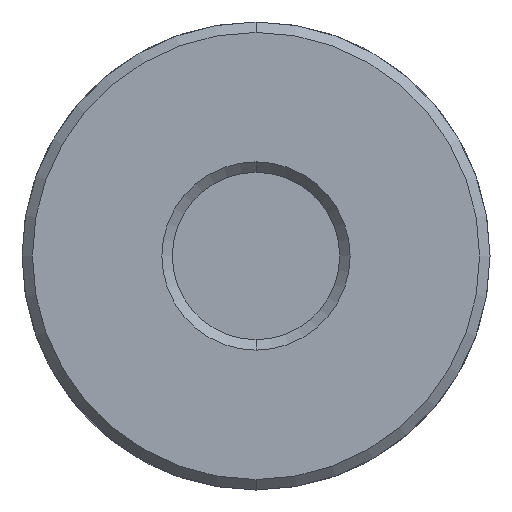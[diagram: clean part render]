
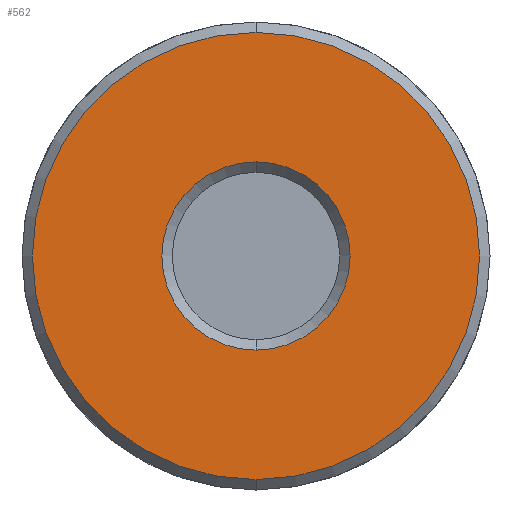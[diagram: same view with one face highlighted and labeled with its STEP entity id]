
A CAD part, front view. The second image highlights one B-rep face of the part: STEP entity #562.
In plain terms, the highlighted planar face has unit normal (0, -1, 0).
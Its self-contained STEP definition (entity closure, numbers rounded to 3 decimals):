
#1 = CARTESIAN_POINT ( 'NONE',  ( -22.5, 0., 0. ) ) ;
#12 = DIRECTION ( 'NONE',  ( 0., 1., 0. ) ) ;
#23 = DIRECTION ( 'NONE',  ( 0., -1., 0. ) ) ;
#30 = AXIS2_PLACEMENT_3D ( 'NONE', #473, #507, #514 ) ;
#36 = AXIS2_PLACEMENT_3D ( 'NONE', #553, #23, #139 ) ;
#40 = DIRECTION ( 'NONE',  ( 0., 0., 1. ) ) ;
#57 = CIRCLE ( 'NONE', #36, 21.5 ) ;
#62 = AXIS2_PLACEMENT_3D ( 'NONE', #344, #352, #353 ) ;
#66 = AXIS2_PLACEMENT_3D ( 'NONE', #154, #150, #176 ) ;
#71 = VERTEX_POINT ( 'NONE', #299 ) ;
#109 = EDGE_CURVE ( 'NONE', #525, #577, #288, .T. ) ;
#127 = EDGE_CURVE ( 'NONE', #577, #525, #434, .T. ) ;
#139 = DIRECTION ( 'NONE',  ( 0., 0., 1. ) ) ;
#150 = DIRECTION ( 'NONE',  ( 0., 1., 0. ) ) ;
#154 = CARTESIAN_POINT ( 'NONE',  ( 0., 0., 0. ) ) ;
#176 = DIRECTION ( 'NONE',  ( 0., 0., 1. ) ) ;
#179 = EDGE_CURVE ( 'NONE', #71, #387, #57, .T. ) ;
#207 = AXIS2_PLACEMENT_3D ( 'NONE', #1, #12, #40 ) ;
#264 = EDGE_CURVE ( 'NONE', #387, #71, #369, .T. ) ;
#288 = CIRCLE ( 'NONE', #66, 9.05 ) ;
#291 = ORIENTED_EDGE ( 'NONE', *, *, #109, .T. ) ;
#299 = CARTESIAN_POINT ( 'NONE',  ( 0., 0., -21.5 ) ) ;
#335 = FACE_OUTER_BOUND ( 'NONE', #693, .T. ) ;
#341 = FACE_BOUND ( 'NONE', #749, .T. ) ;
#344 = CARTESIAN_POINT ( 'NONE',  ( 0., 0., 0. ) ) ;
#352 = DIRECTION ( 'NONE',  ( 0., 1., 0. ) ) ;
#353 = DIRECTION ( 'NONE',  ( 0., 0., 1. ) ) ;
#369 = CIRCLE ( 'NONE', #30, 21.5 ) ;
#387 = VERTEX_POINT ( 'NONE', #708 ) ;
#434 = CIRCLE ( 'NONE', #62, 9.05 ) ;
#473 = CARTESIAN_POINT ( 'NONE',  ( 0., 0., 0. ) ) ;
#496 = ORIENTED_EDGE ( 'NONE', *, *, #127, .T. ) ;
#507 = DIRECTION ( 'NONE',  ( 0., -1., 0. ) ) ;
#514 = DIRECTION ( 'NONE',  ( 0., 0., 1. ) ) ;
#525 = VERTEX_POINT ( 'NONE', #750 ) ;
#527 = ORIENTED_EDGE ( 'NONE', *, *, #179, .T. ) ;
#553 = CARTESIAN_POINT ( 'NONE',  ( 0., 0., 0. ) ) ;
#562 = ADVANCED_FACE ( 'NONE', ( #341, #335 ), #791, .F. ) ;
#577 = VERTEX_POINT ( 'NONE', #673 ) ;
#646 = ORIENTED_EDGE ( 'NONE', *, *, #264, .T. ) ;
#673 = CARTESIAN_POINT ( 'NONE',  ( 0., 0., -9.05 ) ) ;
#693 = EDGE_LOOP ( 'NONE', ( #646, #527 ) ) ;
#708 = CARTESIAN_POINT ( 'NONE',  ( 0., 0., 21.5 ) ) ;
#749 = EDGE_LOOP ( 'NONE', ( #496, #291 ) ) ;
#750 = CARTESIAN_POINT ( 'NONE',  ( 0., 0., 9.05 ) ) ;
#791 = PLANE ( 'NONE',  #207 ) ;
